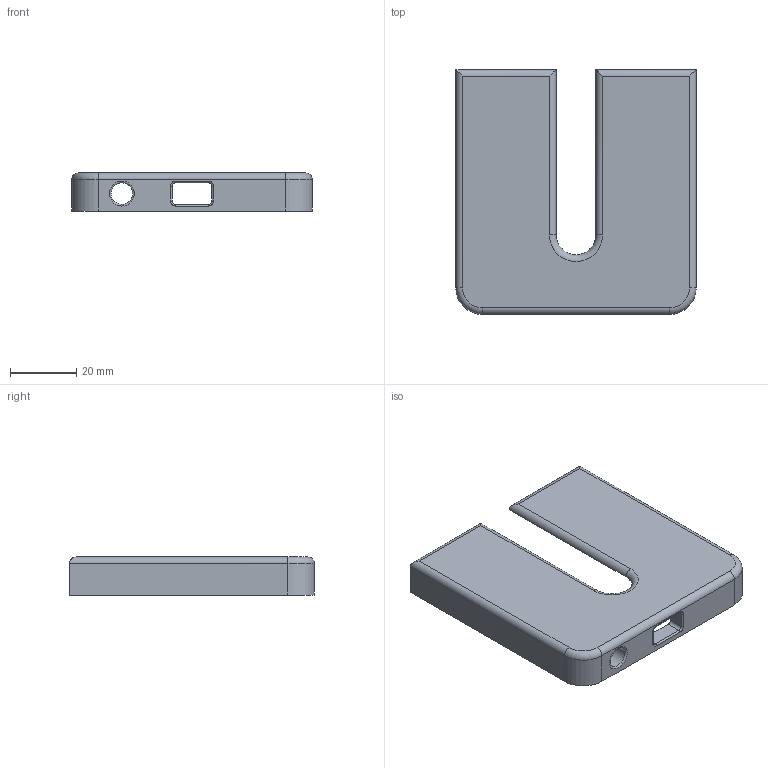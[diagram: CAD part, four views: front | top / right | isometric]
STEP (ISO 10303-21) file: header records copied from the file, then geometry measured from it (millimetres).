
FILE_DESCRIPTION( ( '' ), ' ' );
FILE_NAME( '/vol/tmp/translate-2328143467348391517/578e7aaae4b04f8871ce89f4.step', '2016-07-19T19:08:26', ( '' ), ( '' ), ' ', ' ', ' ' );
FILE_SCHEMA( ( 'AUTOMOTIVE_DESIGN { 1 0 10303 214 1 1 1 1 }' ) );
Length unit declared in the file: metre
Products named in the file (1): Part 1
Bounding box: 72.6 x 74 x 11.5 mm (x, y, z)
Volume: 15086.8 mm3; surface area: 13950.5 mm2
Topology: 1 solids, 1 shells, 55 faces, 141 edges, 88 vertices
Faces by surface type: cylinder 24, plane 21, torus 10
Full cylindrical faces by diameter (mm): 6.5 x1
Entity records: 2151 total; most frequent: CARTESIAN_POINT 347, DIRECTION 291, ORIENTED_EDGE 276, EDGE_CURVE 138, AXIS2_PLACEMENT_3D 109, VERTEX_POINT 87, LINE 73, VECTOR 73
